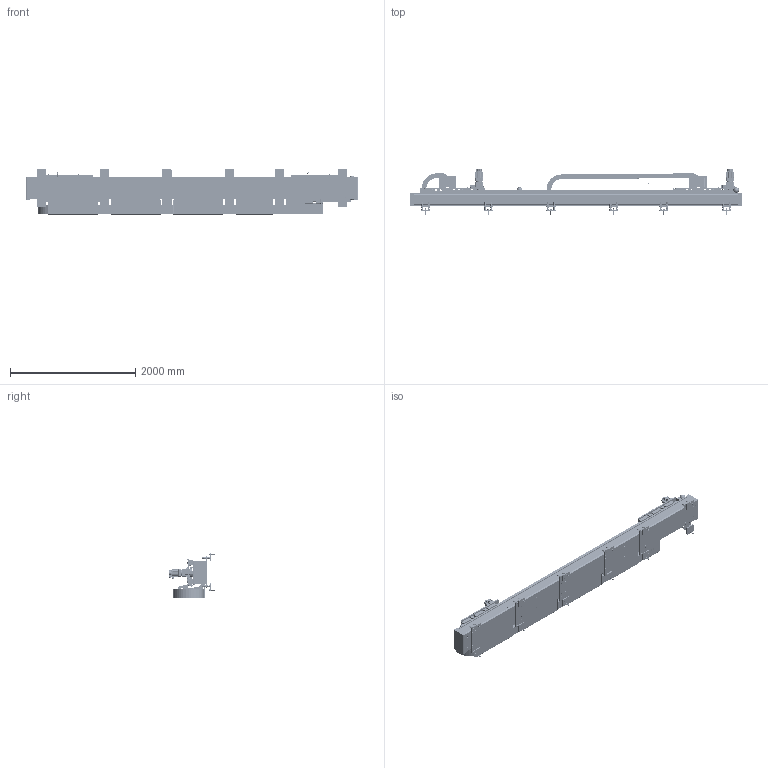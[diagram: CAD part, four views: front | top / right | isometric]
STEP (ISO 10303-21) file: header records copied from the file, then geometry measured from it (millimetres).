
FILE_DESCRIPTION (( 'STEP AP214' ), '1' );
FILE_NAME ('306545-400-1(TM2040_4000TR).STEP', '2024-05-13T08:06:48', ( '' ), ( '' ), 'SwSTEP 2.0', 'SolidWorks 2021', '' );
FILE_SCHEMA (( 'AUTOMOTIVE_DESIGN' ));
Length unit declared in the file: millimetre
Products named in the file (104): 306535-121-0(制音シート)_800L; Cap Screw_M5X10_M5-12; Cap Screw_M8X15_M8-15; HXPP3-STU-M4-10; TKC64H50W110R200-71L(306545-400-0)_4000TR; 302935-102-0(近接ブラケット); SHS45+4875LT; SW20; PD4; 306545-107-0(ピニオンカバー); SHS45LV(グリスニップル・集中給油)_継手(LF-C)L側 N(1-8)-75L L(1-8); VRXF-9E-K-28HA22; EYE_BOLT(M24); SHS45LV(グリスニップル・集中給油)_継手(LF-C)L側; TKC0640-KA_W110; ｴﾙﾎﾞｱﾀﾞﾌﾟﾀ(106029)_デフォルト; Cap Screw(SW,W)_M8X25_M8-25; 306535-122-0(補強ブラケット); Cap Screw(W)_M6X60_M6-40; Cap Screw_M8X25_M8-25; W20; 305635-118-0(搬送用金具(A)); Cap Screw(SW_W)_M10X40_M10-40; 306545-108-0(アジャスターブラケット); NUT(M8)_type2; Cap Screw_M10X20_M10-20; 306535-118-0(ケーブルレール(600L) Assy); 306535-111-0(アジャスタプレート); M5-5(SET(ギザ先)); C12(LM用ｷｬｯﾌﾟ); 306535-113-0(原点ブロック); EYE_BOLT(M24)_DUMMY; NUT(M20)_type1; 306535-117-0(固定端ブラケット); SHS45LV(グリスニップル・集中給油)_継手(LF-C)L側 N(1-8)-75L L(1-8)逆; 306535-125-0(ブラケットスペーサ); SRFD2.5-1000; 306545-100-0_集中給油マニホールド Assy; 306055-103-0(LMガイドストッパ)_Ｌ型（4点止め）; Cap Screw_M12X30_M12-30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
Assembly tree (460 placements, depth 4):
  306545-400-1(TM2040_4000TR)
    306545-411-0(走行フレーム(4000TR))
    306545-100-0-1_可動部 Assy_奥側  x2
      306545-102-1(スライドベース)
      303156-106-0(位置決めﾋﾟﾝ)
      306545-100-0_モータ Assy
        303825-109-1(モータブラケット)
        VRXF-9E-K-28HA22
        MDMF202L1C6
        306545-105-0(ピニオンギア)
        306545-106-0(ギヤプレート)
        Cap Screw_M8X25_M8-25  x4
        Cap Screw_M10X25_M10-25  x4
        M5-5(SET(ギザ先))  x2
        Cap Screw_M10X20_M10-20
      306055-103-0(LMガイドストッパ)_Ｌ型（4点止め）
      302935-102-0(近接ブラケット)
      SHS45LV(グリスニップル・集中給油)_継手(LF-C)R側
        SHS45LV_集中給油ベース
        LF-C(THK)
        PD4
        ｺﾝﾌﾟﾚｯｼｮンﾌﾞｯｼﾝｸﾞ(106253)
        ｺﾝﾌﾟﾚｯｼｮンｽﾘｰﾌﾞ(106254)
        僫僀儘儞僠儏僂僽(冇4x冇2.5)
      SHS45LV(グリスニップル・集中給油)_継手(LF-C)L側 N(1-8)-75L L(1-8)逆
        SHS45LV_集中給油ベース
        LF-C(THK)
        PD4
        ｺﾝﾌﾟﾚｯｼｮンﾌﾞｯｼﾝｸﾞ(106253)
        ｺﾝﾌﾟﾚｯｼｮンｽﾘｰﾌﾞ(106254)
        僫僀儘儞僠儏僂僽(冇4x冇2.5)
        LongN-(1-8)-75L
        L-(1-8)
      SHS45LV(グリスニップル・集中給油)_継手(LF-C)L側
        SHS45LV_集中給油ベース
        LF-C(THK)
        PD4
        ｺﾝﾌﾟﾚｯｼｮンﾌﾞｯｼﾝｸﾞ(106253)
        ｺﾝﾌﾟﾚｯｼｮンｽﾘｰﾌﾞ(106254)
        僫僀儘儞僠儏僂僽(冇4x冇2.5)
      SHS45LV(グリスニップル・集中給油)_継手(LF-C)L側 N(1-8)-75L L(1-8)
        SHS45LV_集中給油ベース
        LF-C(THK)
        PD4
        ｺﾝﾌﾟﾚｯｼｮンﾌﾞｯｼﾝｸﾞ(106253)
        ｺﾝﾌﾟﾚｯｼｮンｽﾘｰﾌﾞ(106254)
        僫僀儘儞僠儏僂僽(冇4x冇2.5)
        LongN-(1-8)-75L
        L-(1-8)
      NUT(M8)_type2
      TL-Q5MC(配線有・横)
      ｽﾄﾚｰﾄｱﾀﾞﾌﾟﾀ(106001)_L=18
      ｴﾙﾎﾞｱﾀﾞﾌﾟﾀ(106029)_デフォルト
      ｺﾝﾌﾟﾚｯｼｮンﾌﾞｯｼﾝｸﾞ(106253)
      hexa bolt M8-50
      Cap Screw(SW_W)_M10X40_M10-40
      Cap Screw_M6X10_M6-10
      Cap Screw_M10X20_M10-20
      AB-4N(ナイロンクリップ)
      LKC（クレードル）
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Bounding box: 5296 x 731 x 732.5 mm (x, y, z)
Volume: 209222550.7 mm3; surface area: 43084043.3 mm2
Topology: 744 solids, 772 shells, 18352 faces, 43517 edges, 26912 vertices
Faces by surface type: plane 8412, cylinder 6748, cone 2070, bspline 1020, torus 86, sphere 16
Full cylindrical faces by diameter (mm): 102 x2
Entity records: 201406 total; most frequent: CARTESIAN_POINT 38085, DIRECTION 30626, ORIENTED_EDGE 27430, EDGE_CURVE 13728, AXIS2_PLACEMENT_3D 11829, VERTEX_POINT 8860, EDGE_LOOP 7367, LINE 6968
